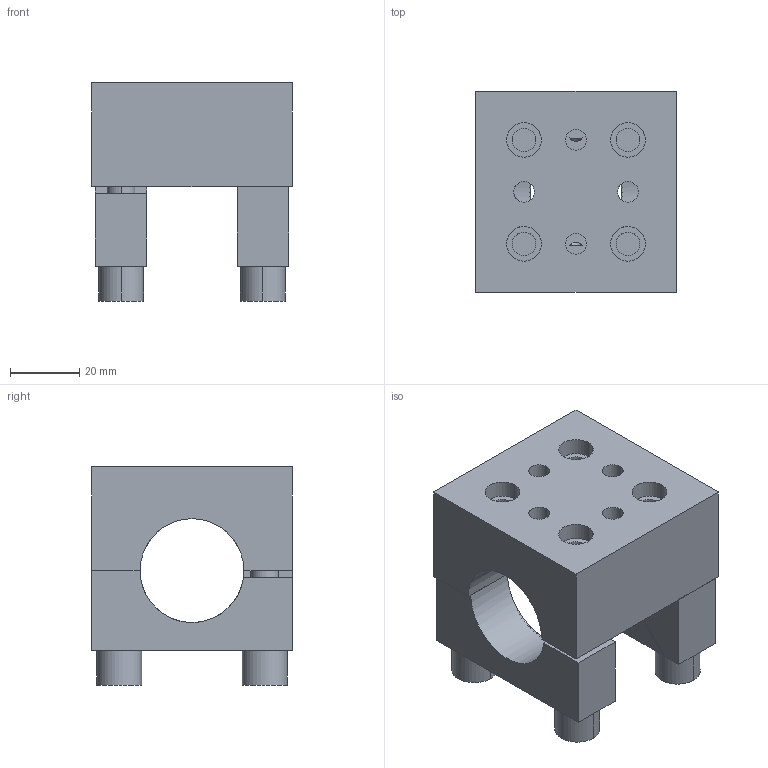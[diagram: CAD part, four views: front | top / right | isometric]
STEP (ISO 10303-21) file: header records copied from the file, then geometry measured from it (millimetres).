
FILE_DESCRIPTION(('STEP AP214'),'1');
FILE_NAME('EGT218_1706092_RD30_FL58.CATPart.stp','2015-09-14T13:13:46',('3D-Tool'),(' '),'Spatial InterOp 3D',' ',' ');
FILE_SCHEMA(('automotive_design'));
Length unit declared in the file: millimetre
Products named in the file (7): EGT218_1706092_RD30_FL58|EGT218_RD30_FL58|Bohrbearbeitung; EGT218_1706092_RD30_FL58|EGT205_SCHELLE_RD30_1|Assemble.51; EGT218_1706092_RD30_FL58|EGT205_SCHELLE_RD30_2|Assemble.52; 1; 2; 3; 4
Bounding box: 58 x 58 x 63.1 mm (x, y, z)
Volume: 106360.4 mm3; surface area: 37175.3 mm2
Topology: 7 solids, 7 shells, 336 faces, 873 edges, 582 vertices
Faces by surface type: plane 188, cylinder 148
Entity records: 14203 total; most frequent: CARTESIAN_POINT 3069, ORIENTED_EDGE 1746, DIRECTION 1695, EDGE_CURVE 873, AXIS2_PLACEMENT_3D 624, VERTEX_POINT 582, LINE 447, VECTOR 447
